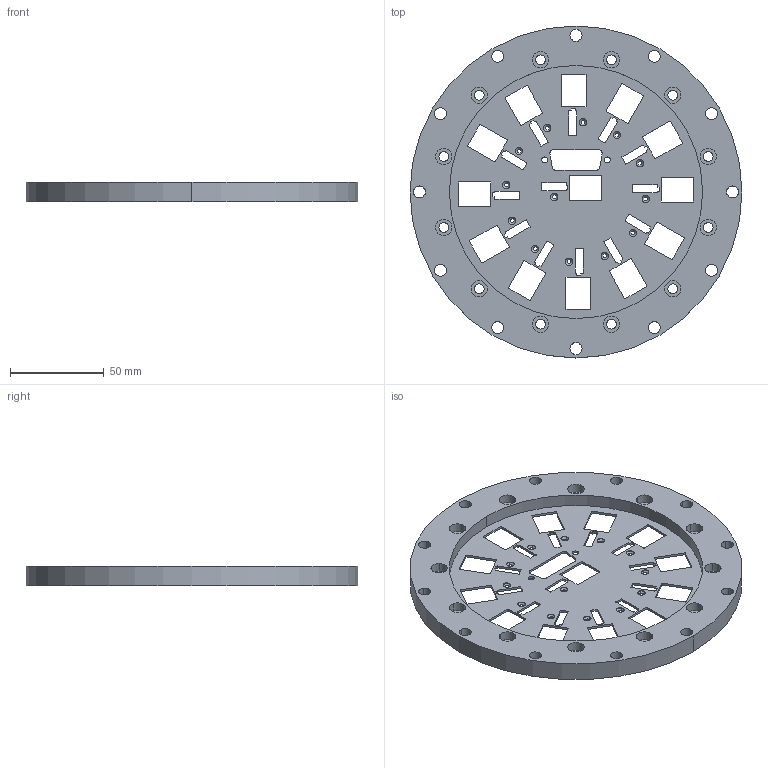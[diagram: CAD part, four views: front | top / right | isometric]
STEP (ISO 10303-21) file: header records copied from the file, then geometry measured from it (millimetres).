
FILE_DESCRIPTION(/* description */ ('VariCAD 2009-1.04 AP-203'),/* implementation_level */ '2;1');
FILE_NAME(/* name */ '0353-13-11',/* time_stamp */ '2009-06-17T23:11:34-06:00',/* author */ (''),/* organization */ (''),/* preprocessor_version */ 'ST-DEVELOPER v12',/* originating_system */ 'VariCAD 2009-1.04; kernel version (20080921)',/* authorisation */ '');
FILE_SCHEMA (('CONFIG_CONTROL_DESIGN'));
Length unit declared in the file: millimetre
Products named in the file (1): Part
Bounding box: 177 x 177 x 10.3 mm (x, y, z)
Volume: 100449.4 mm3; surface area: 55751.2 mm2
Topology: 1 solids, 1 shells, 483 faces, 1349 edges, 882 vertices
Faces by surface type: cylinder 281, plane 176, cone 26
Entity records: 15979 total; most frequent: DIRECTION 2881, CARTESIAN_POINT 2716, ORIENTED_EDGE 2698, EDGE_CURVE 1349, AXIS2_PLACEMENT_3D 1047, VERTEX_POINT 882, LINE 787, VECTOR 787
